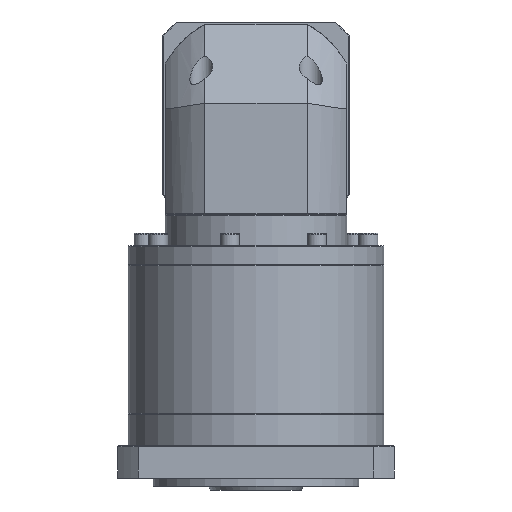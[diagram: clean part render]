
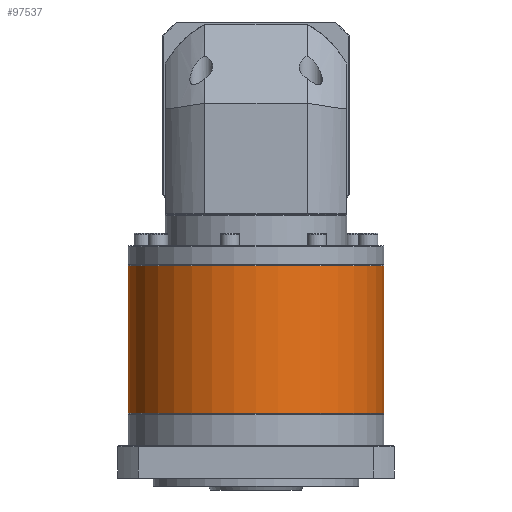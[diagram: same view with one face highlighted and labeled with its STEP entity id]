
A CAD part, front view. The second image highlights one B-rep face of the part: STEP entity #97537.
In plain terms, the highlighted cylindrical face has radius 81 mm (diameter 162 mm), a partial arc.
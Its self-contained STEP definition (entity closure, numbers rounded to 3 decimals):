
#10289 = ORIENTED_EDGE ( 'NONE', *, *, #125846, .T. ) ;
#13030 = DIRECTION ( 'NONE',  ( 0., 0., -1. ) ) ;
#19909 = CARTESIAN_POINT ( 'NONE',  ( -69.258, 67.133, -83.921 ) ) ;
#25881 = VERTEX_POINT ( 'NONE', #76598 ) ;
#28587 = FACE_OUTER_BOUND ( 'NONE', #112670, .T. ) ;
#32952 = VERTEX_POINT ( 'NONE', #119205 ) ;
#33055 = AXIS2_PLACEMENT_3D ( 'NONE', #76198, #13030, #86790 ) ;
#33190 = AXIS2_PLACEMENT_3D ( 'NONE', #129904, #109582, #66324 ) ;
#48445 = VECTOR ( 'NONE', #93636, 1000. ) ;
#50641 = CARTESIAN_POINT ( 'NONE',  ( -231.258, 67.133, -83.921 ) ) ;
#63773 = ORIENTED_EDGE ( 'NONE', *, *, #131923, .T. ) ;
#66237 = CARTESIAN_POINT ( 'NONE',  ( -69.258, 67.133, -84.421 ) ) ;
#66324 = DIRECTION ( 'NONE',  ( -1., 0., 0. ) ) ;
#70073 = AXIS2_PLACEMENT_3D ( 'NONE', #130233, #88701, #110366 ) ;
#70930 = EDGE_CURVE ( 'NONE', #101442, #104162, #122895, .T. ) ;
#71890 = VECTOR ( 'NONE', #73155, 1000. ) ;
#73155 = DIRECTION ( 'NONE',  ( 0., 0., -1. ) ) ;
#76198 = CARTESIAN_POINT ( 'NONE',  ( -150.258, 67.133, -84.421 ) ) ;
#76598 = CARTESIAN_POINT ( 'NONE',  ( -69.258, 67.133, -177.921 ) ) ;
#80893 = EDGE_CURVE ( 'NONE', #101442, #25881, #127672, .T. ) ;
#86790 = DIRECTION ( 'NONE',  ( -1., 0., 0. ) ) ;
#88701 = DIRECTION ( 'NONE',  ( 0., 0., -1. ) ) ;
#89984 = CARTESIAN_POINT ( 'NONE',  ( -231.258, 67.133, -84.421 ) ) ;
#93636 = DIRECTION ( 'NONE',  ( 0., 0., -1. ) ) ;
#97537 = ADVANCED_FACE ( 'NONE', ( #28587 ), #116016, .T. ) ;
#101442 = VERTEX_POINT ( 'NONE', #66237 ) ;
#102828 = ORIENTED_EDGE ( 'NONE', *, *, #70930, .T. ) ;
#104162 = VERTEX_POINT ( 'NONE', #89984 ) ;
#108976 = CIRCLE ( 'NONE', #33190, 81. ) ;
#109582 = DIRECTION ( 'NONE',  ( 0., 0., 1. ) ) ;
#110366 = DIRECTION ( 'NONE',  ( -1., 0., 0. ) ) ;
#112670 = EDGE_LOOP ( 'NONE', ( #116938, #102828, #63773, #10289 ) ) ;
#116016 = CYLINDRICAL_SURFACE ( 'NONE', #70073, 81. ) ;
#116938 = ORIENTED_EDGE ( 'NONE', *, *, #80893, .F. ) ;
#119205 = CARTESIAN_POINT ( 'NONE',  ( -231.258, 67.133, -177.921 ) ) ;
#122895 = CIRCLE ( 'NONE', #33055, 81. ) ;
#125846 = EDGE_CURVE ( 'NONE', #32952, #25881, #108976, .T. ) ;
#127672 = LINE ( 'NONE', #19909, #48445 ) ;
#128000 = LINE ( 'NONE', #50641, #71890 ) ;
#129904 = CARTESIAN_POINT ( 'NONE',  ( -150.258, 67.133, -177.921 ) ) ;
#130233 = CARTESIAN_POINT ( 'NONE',  ( -150.258, 67.133, -83.921 ) ) ;
#131923 = EDGE_CURVE ( 'NONE', #104162, #32952, #128000, .T. ) ;
